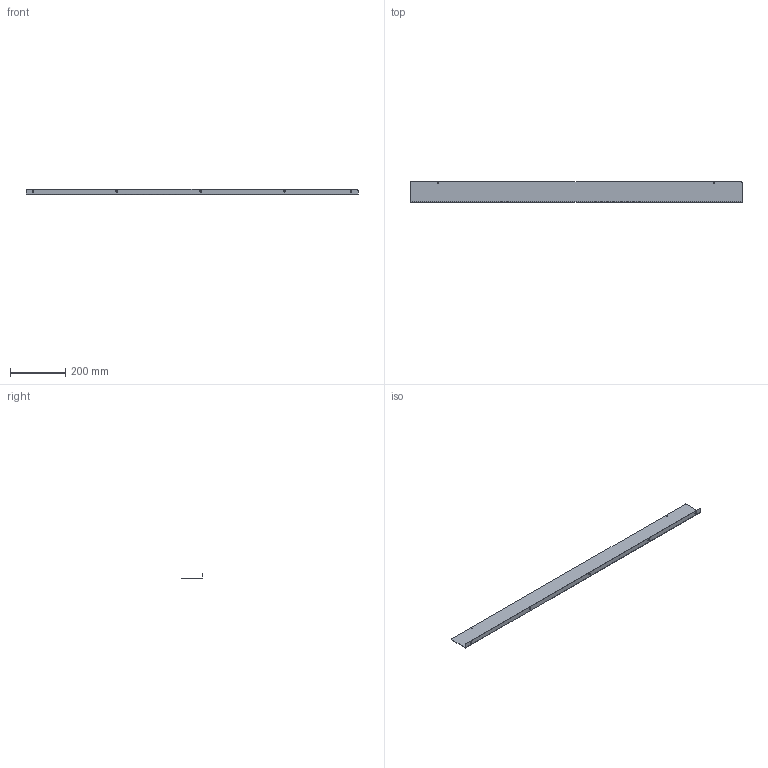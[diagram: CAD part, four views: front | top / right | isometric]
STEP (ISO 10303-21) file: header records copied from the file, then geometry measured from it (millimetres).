
FILE_DESCRIPTION((''),'2;1');
FILE_NAME('C:\Vault_Workspace\Inventor_Dwg\Inv-1\1100BA\WEBSITE\1100BA4048.stp','2015-02-02T15:08:43',('MichaelA'),(''),'Autodesk Inventor 2012','Autodesk Inventor 2012','');
FILE_SCHEMA(('AUTOMOTIVE_DESIGN { 1 0 10303 214 1 1 1 1 }'));
Length unit declared in the file: inch
Products named in the file (1): 1100BA-MASTER
Bounding box: 1206.5 x 76.2 x 19.05 mm (x, y, z)
Volume: 156776.6 mm3; surface area: 228267.4 mm2
Topology: 1 solids, 1 shells, 25 faces, 61 edges, 38 vertices
Faces by surface type: cylinder 13, plane 12
Full cylindrical faces by diameter (mm): 4.496 x2, 7.137 x5
Entity records: 758 total; most frequent: DIRECTION 132, CARTESIAN_POINT 118, ORIENTED_EDGE 108, EDGE_CURVE 54, AXIS2_PLACEMENT_3D 52, EDGE_LOOP 46, VERTEX_POINT 38, VECTOR 28
